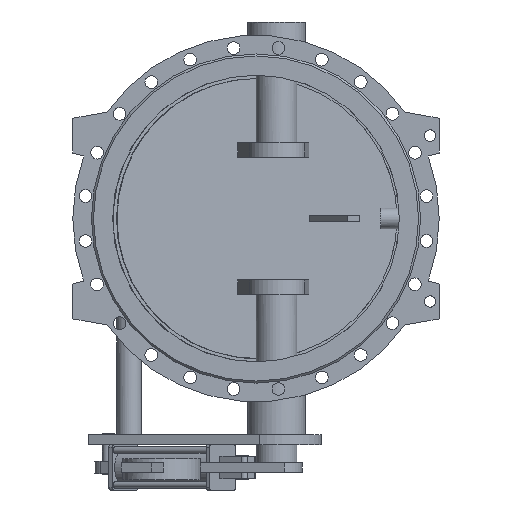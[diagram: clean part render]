
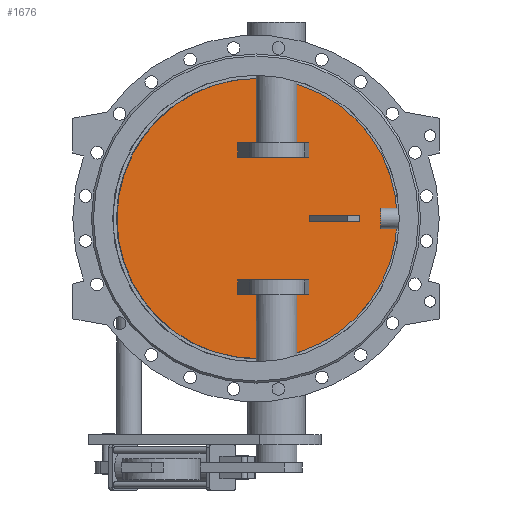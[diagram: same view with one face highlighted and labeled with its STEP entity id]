
A CAD part, front view. The second image highlights one B-rep face of the part: STEP entity #1676.
In plain terms, the highlighted planar face has unit normal (0.131, -0.991, 0).
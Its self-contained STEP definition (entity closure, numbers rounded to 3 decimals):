
#1676=ADVANCED_FACE('',(#3733,#3735,#3737,#3739),#3741,.T.);
#3733=FACE_BOUND('',#3734,.T.);
#3734=EDGE_LOOP('',(#4886));
#3735=FACE_BOUND('',#3736,.T.);
#3736=EDGE_LOOP('',(#4887,#4888,#4889,#4890));
#3737=FACE_BOUND('',#3738,.T.);
#3738=EDGE_LOOP('',(#4891,#4892,#4893,#4894));
#3739=FACE_BOUND('',#3740,.T.);
#3740=EDGE_LOOP('',(#4895,#4896,#4897,#4898));
#3741=PLANE('',#3742);
#3742=AXIS2_PLACEMENT_3D('',#3743,#3744,#3745);
#3743=CARTESIAN_POINT('',(-1.272,9.66,0.));
#3744=DIRECTION('',(0.131,-0.991,0.));
#3745=DIRECTION('',(0.,0.,-1.));
#4886=ORIENTED_EDGE('',*,*,#5402,.T.);
#4887=ORIENTED_EDGE('',*,*,#5421,.F.);
#4888=ORIENTED_EDGE('',*,*,#5422,.F.);
#4889=ORIENTED_EDGE('',*,*,#5423,.F.);
#4890=ORIENTED_EDGE('',*,*,#5424,.F.);
#4891=ORIENTED_EDGE('',*,*,#5425,.F.);
#4892=ORIENTED_EDGE('',*,*,#5426,.F.);
#4893=ORIENTED_EDGE('',*,*,#5427,.F.);
#4894=ORIENTED_EDGE('',*,*,#5428,.F.);
#4895=ORIENTED_EDGE('',*,*,#5429,.F.);
#4896=ORIENTED_EDGE('',*,*,#5430,.F.);
#4897=ORIENTED_EDGE('',*,*,#5431,.F.);
#4898=ORIENTED_EDGE('',*,*,#5432,.F.);
#5402=EDGE_CURVE('',#6174,#6174,#6175,.T.);
#5421=EDGE_CURVE('',#6212,#6213,#6214,.T.);
#5422=EDGE_CURVE('',#6215,#6212,#6216,.F.);
#5423=EDGE_CURVE('',#6217,#6215,#6218,.T.);
#5424=EDGE_CURVE('',#6213,#6217,#6219,.T.);
#5425=EDGE_CURVE('',#6220,#6221,#6222,.F.);
#5426=EDGE_CURVE('',#6223,#6220,#6224,.T.);
#5427=EDGE_CURVE('',#6225,#6223,#6226,.T.);
#5428=EDGE_CURVE('',#6221,#6225,#6227,.T.);
#5429=EDGE_CURVE('',#6228,#6229,#6230,.T.);
#5430=EDGE_CURVE('',#6231,#6228,#6232,.F.);
#5431=EDGE_CURVE('',#6233,#6231,#6234,.F.);
#5432=EDGE_CURVE('',#6229,#6233,#6235,.F.);
#6174=VERTEX_POINT('',#9471);
#6175=B_SPLINE_CURVE_WITH_KNOTS('',3,
(#9472,#9473,#9474,#9475,#9476,#9477,#9478,#9479,#9480,#9481,#9482,#9483,#9484,#9485,
#9486,#9487,#9488,#9489,#9490,#9491,#9492,#9493,#9494,#9495,#9496,#9497,#9498,#9499,
#9500,#9501,#9502,#9503,#9504,#9505,#9506,#9507,#9508,#9509,#9510,#9511,#9512,#9513,
#9514,#9515,#9516,#9517,#9518,#9519,#9520,#9521,#9522),
.UNSPECIFIED.,.T.,.F.,
(4,1,1,1,1,1,1,1,1,1,1,1,1,1,1,1,1,1,1,1,1,1,1,1,1,1,1,1,1,1,1,1,1,1,1,1,1,1,1,1,
1,1,1,1,1,1,1,1,4),
(0.,0.021,0.042,0.063,0.084,0.105,
0.126,0.147,0.168,0.189,0.211,
0.232,0.253,0.274,0.295,0.316,
0.337,0.358,0.379,0.4,0.421,
0.442,0.463,0.484,0.505,0.527,
0.548,0.569,0.59,0.611,0.632,
0.653,0.674,0.695,0.716,0.737,
0.758,0.779,0.8,0.821,0.842,
0.864,0.885,0.906,0.927,0.948,
0.969,0.986,1.),
.UNSPECIFIED.);
#6212=VERTEX_POINT('',#10134);
#6213=VERTEX_POINT('',#10135);
#6214=LINE('',#10136,#10137);
#6215=VERTEX_POINT('',#10139);
#6216=LINE('',#10140,#10141);
#6217=VERTEX_POINT('',#10143);
#6218=LINE('',#10144,#10145);
#6219=LINE('',#10147,#10148);
#6220=VERTEX_POINT('',#10150);
#6221=VERTEX_POINT('',#10151);
#6222=LINE('',#10152,#10153);
#6223=VERTEX_POINT('',#10155);
#6224=LINE('',#10156,#10157);
#6225=VERTEX_POINT('',#10159);
#6226=LINE('',#10160,#10161);
#6227=LINE('',#10163,#10164);
#6228=VERTEX_POINT('',#10166);
#6229=VERTEX_POINT('',#10167);
#6230=LINE('',#10168,#10169);
#6231=VERTEX_POINT('',#10171);
#6232=LINE('',#10172,#10173);
#6233=VERTEX_POINT('',#10175);
#6234=LINE('',#10176,#10177);
#6235=LINE('',#10179,#10180);
#9471=CARTESIAN_POINT('',(2.611,10.171,342.));
#9472=CARTESIAN_POINT('',(2.611,10.171,342.));
#9473=CARTESIAN_POINT('',(-12.418,8.193,342.));
#9474=CARTESIAN_POINT('',(-42.51,4.231,340.014));
#9475=CARTESIAN_POINT('',(-86.92,-1.616,331.113));
#9476=CARTESIAN_POINT('',(-129.828,-7.265,316.412));
#9477=CARTESIAN_POINT('',(-170.446,-12.612,296.163));
#9478=CARTESIAN_POINT('',(-208.026,-17.56,270.738));
#9479=CARTESIAN_POINT('',(-241.92,-22.022,240.578));
#9480=CARTESIAN_POINT('',(-271.535,-25.921,206.212));
#9481=CARTESIAN_POINT('',(-296.353,-29.188,168.242));
#9482=CARTESIAN_POINT('',(-315.942,-31.767,127.332));
#9483=CARTESIAN_POINT('',(-329.961,-33.613,84.197));
#9484=CARTESIAN_POINT('',(-338.164,-34.693,39.592));
#9485=CARTESIAN_POINT('',(-340.41,-34.988,-5.705));
#9486=CARTESIAN_POINT('',(-336.659,-34.495,-50.903));
#9487=CARTESIAN_POINT('',(-326.975,-33.22,-95.211));
#9488=CARTESIAN_POINT('',(-311.529,-31.186,-137.856));
#9489=CARTESIAN_POINT('',(-290.589,-28.429,-178.093));
#9490=CARTESIAN_POINT('',(-264.52,-24.997,-215.217));
#9491=CARTESIAN_POINT('',(-233.777,-20.95,-248.58));
#9492=CARTESIAN_POINT('',(-198.896,-16.358,-277.598));
#9493=CARTESIAN_POINT('',(-160.486,-11.301,-301.76));
#9494=CARTESIAN_POINT('',(-119.22,-5.868,-320.644));
#9495=CARTESIAN_POINT('',(-75.818,-0.154,-333.917));
#9496=CARTESIAN_POINT('',(-31.043,5.741,-341.346));
#9497=CARTESIAN_POINT('',(14.323,11.713,-342.801));
#9498=CARTESIAN_POINT('',(59.482,17.658,-338.255));
#9499=CARTESIAN_POINT('',(103.645,23.473,-327.789));
#9500=CARTESIAN_POINT('',(146.037,29.054,-311.587));
#9501=CARTESIAN_POINT('',(185.916,34.304,-289.934));
#9502=CARTESIAN_POINT('',(222.585,39.131,-263.21));
#9503=CARTESIAN_POINT('',(255.403,43.452,-231.884));
#9504=CARTESIAN_POINT('',(283.798,47.19,-196.505));
#9505=CARTESIAN_POINT('',(307.273,50.281,-157.691));
#9506=CARTESIAN_POINT('',(325.42,52.67,-116.122));
#9507=CARTESIAN_POINT('',(337.922,54.316,-72.524));
#9508=CARTESIAN_POINT('',(344.561,55.19,-27.66));
#9509=CARTESIAN_POINT('',(345.222,55.277,17.688));
#9510=CARTESIAN_POINT('',(339.893,54.575,62.727));
#9511=CARTESIAN_POINT('',(328.667,53.097,106.67));
#9512=CARTESIAN_POINT('',(311.739,50.869,148.75));
#9513=CARTESIAN_POINT('',(289.405,47.928,188.231));
#9514=CARTESIAN_POINT('',(262.053,44.327,224.422));
#9515=CARTESIAN_POINT('',(230.16,40.129,256.692));
#9516=CARTESIAN_POINT('',(194.294,35.407,284.466));
#9517=CARTESIAN_POINT('',(155.122,30.25,307.238));
#9518=CARTESIAN_POINT('',(113.213,24.732,324.688));
#9519=CARTESIAN_POINT('',(71.88,19.291,335.775));
#9520=CARTESIAN_POINT('',(34.719,14.398,341.04));
#9521=CARTESIAN_POINT('',(12.424,11.463,342.));
#9522=CARTESIAN_POINT('',(2.611,10.171,342.));
#10134=CARTESIAN_POINT('',(234.102,40.647,-7.5));
#10135=CARTESIAN_POINT('',(234.102,40.647,7.5));
#10136=CARTESIAN_POINT('',(234.102,40.647,-7.5));
#10137=VECTOR('',#10138,1.);
#10138=DIRECTION('',(0.,0.,1.));
#10139=CARTESIAN_POINT('',(130.,26.942,-7.5));
#10140=CARTESIAN_POINT('',(234.102,40.647,-7.5));
#10141=VECTOR('',#10142,1.);
#10142=DIRECTION('',(-0.991,-0.131,0.));
#10143=CARTESIAN_POINT('',(130.,26.942,7.5));
#10144=CARTESIAN_POINT('',(130.,26.942,7.5));
#10145=VECTOR('',#10146,1.);
#10146=DIRECTION('',(0.,0.,-1.));
#10147=CARTESIAN_POINT('',(234.102,40.647,7.5));
#10148=VECTOR('',#10149,1.);
#10149=DIRECTION('',(-0.991,-0.131,0.));
#10150=CARTESIAN_POINT('',(-44.007,4.034,-185.));
#10151=CARTESIAN_POINT('',(129.407,26.864,-185.));
#10152=CARTESIAN_POINT('',(129.407,26.864,-185.));
#10153=VECTOR('',#10154,1.);
#10154=DIRECTION('',(-0.991,-0.131,0.));
#10155=CARTESIAN_POINT('',(-44.007,4.034,-150.));
#10156=CARTESIAN_POINT('',(-44.007,4.034,-150.));
#10157=VECTOR('',#10158,1.);
#10158=DIRECTION('',(0.,0.,-1.));
#10159=CARTESIAN_POINT('',(129.407,26.864,-150.));
#10160=CARTESIAN_POINT('',(129.407,26.864,-150.));
#10161=VECTOR('',#10162,1.);
#10162=DIRECTION('',(-0.991,-0.131,0.));
#10163=CARTESIAN_POINT('',(129.407,26.864,-185.));
#10164=VECTOR('',#10165,1.);
#10165=DIRECTION('',(0.,0.,1.));
#10166=CARTESIAN_POINT('',(129.407,26.864,185.));
#10167=CARTESIAN_POINT('',(-44.007,4.034,185.));
#10168=CARTESIAN_POINT('',(129.407,26.864,185.));
#10169=VECTOR('',#10170,1.);
#10170=DIRECTION('',(-0.991,-0.131,0.));
#10171=CARTESIAN_POINT('',(129.407,26.864,150.));
#10172=CARTESIAN_POINT('',(129.407,26.864,185.));
#10173=VECTOR('',#10174,1.);
#10174=DIRECTION('',(0.,0.,-1.));
#10175=CARTESIAN_POINT('',(-44.007,4.034,150.));
#10176=CARTESIAN_POINT('',(129.407,26.864,150.));
#10177=VECTOR('',#10178,1.);
#10178=DIRECTION('',(-0.991,-0.131,0.));
#10179=CARTESIAN_POINT('',(-44.007,4.034,150.));
#10180=VECTOR('',#10181,1.);
#10181=DIRECTION('',(0.,0.,1.));
